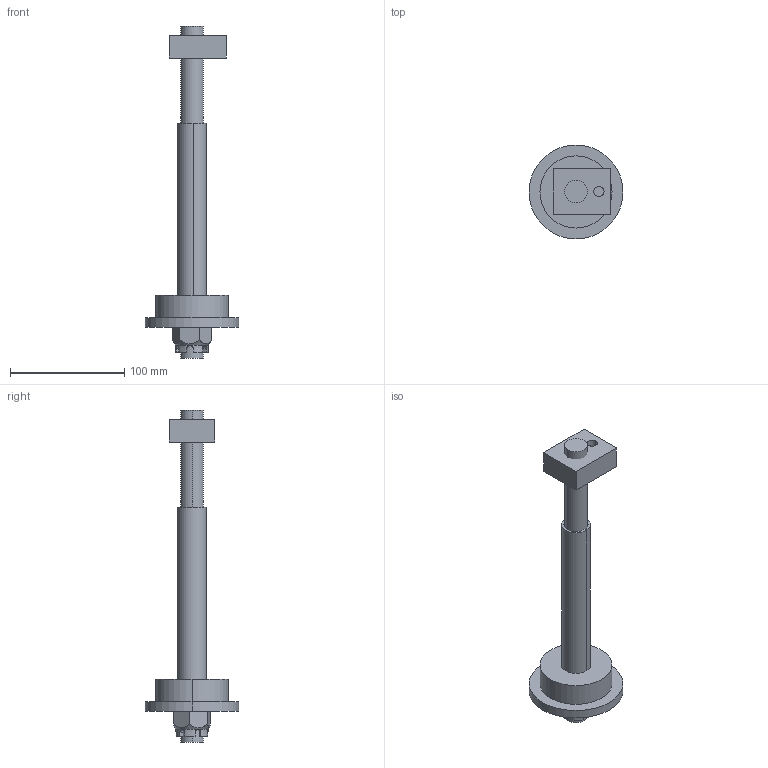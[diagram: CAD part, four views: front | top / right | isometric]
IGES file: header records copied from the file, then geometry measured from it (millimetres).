
Start section: START RECORD GO HERE.
Global section: file name: 740T-20.igs; native system: DASSAULT SYSTEMES CATIA V5 R20 - www.3ds.com; preprocessor: CATIA Version 5 Release 20 ; author: Utente; organization: NB04-ASUS; date: 20201027.195705; units: millimetre
Bounding box: 82 x 82 x 290 mm (x, y, z)
Surface area: 79870.2 mm2 (no closed solid volume)
Topology: 0 solids, 0 shells, 75 faces, 368 edges, 368 vertices
Faces by surface type: plane 39, revolution 36
